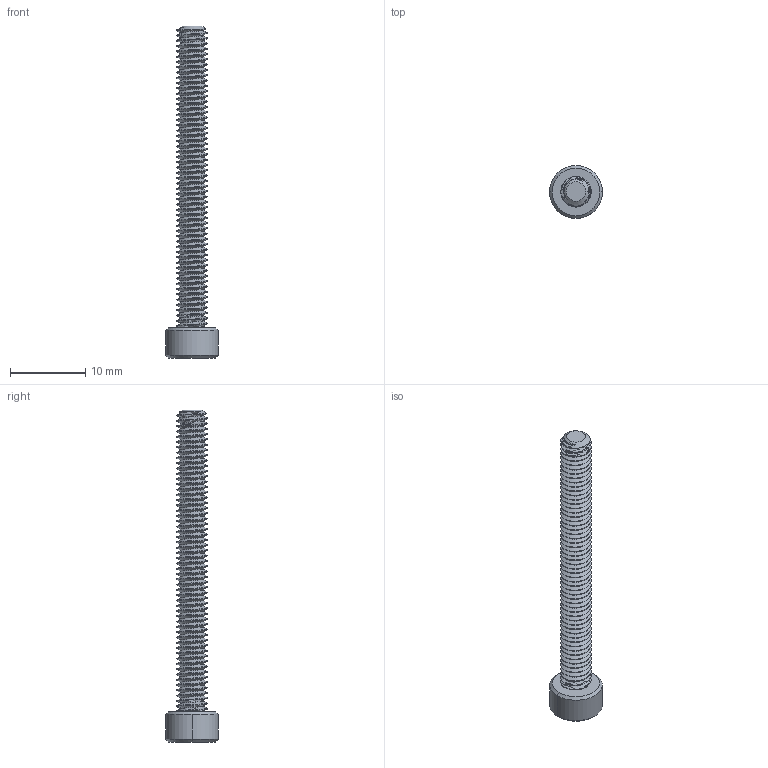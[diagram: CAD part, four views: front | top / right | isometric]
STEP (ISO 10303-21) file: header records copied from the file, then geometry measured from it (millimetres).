
FILE_DESCRIPTION (( 'STEP AP203' ), '1' );
FILE_NAME ('2800-0004-0040.STEP', '2017-04-04T18:15:18', ( '' ), ( '' ), 'SwSTEP 2.0', 'SolidWorks 2016', '' );
FILE_SCHEMA (( 'CONFIG_CONTROL_DESIGN' ));
Length unit declared in the file: millimetre
Products named in the file (1): 2800-0004-0040
Bounding box: 7 x 7 x 44 mm (x, y, z)
Volume: 530.8 mm3; surface area: 953 mm2
Topology: 1 solids, 1 shells, 256 faces, 739 edges, 487 vertices
Faces by surface type: cylinder 231, cone 13, plane 10, bspline 2
Entity records: 13549 total; most frequent: CARTESIAN_POINT 8129, ORIENTED_EDGE 1478, DIRECTION 802, EDGE_CURVE 739, VERTEX_POINT 487, AXIS2_PLACEMENT_3D 277, EDGE_LOOP 258, ADVANCED_FACE 256
